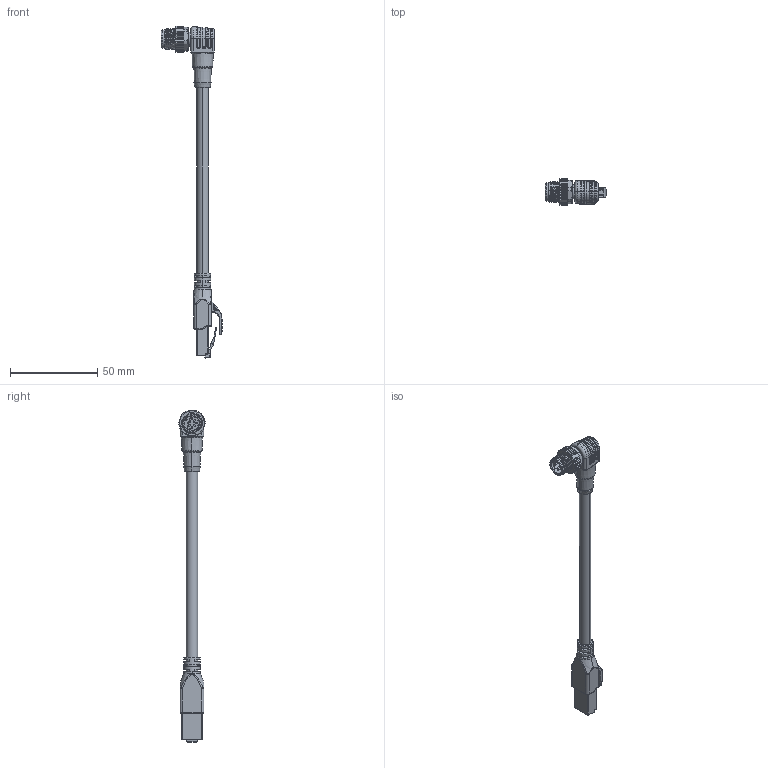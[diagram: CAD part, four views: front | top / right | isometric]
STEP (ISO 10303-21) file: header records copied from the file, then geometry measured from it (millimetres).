
FILE_DESCRIPTION (( 'STEP AP203' ), '1' );
FILE_NAME ('0C4591-XXX.STEP', '2024-11-27T01:23:07', ( 'L' ), ( '' ), 'SwSTEP 2.0', 'SolidWorks 2019', '' );
FILE_SCHEMA (( 'CONFIG_CONTROL_DESIGN' ));
Length unit declared in the file: millimetre
Products named in the file (1): 0C4591-XXX
Bounding box: 35.05 x 15 x 190.05 mm (x, y, z)
Volume: 13253.5 mm3; surface area: 9009 mm2
Topology: 1 solids, 3 shells, 1429 faces, 3940 edges, 2534 vertices
Faces by surface type: plane 553, cylinder 467, bspline 177, cone 113, torus 103, sphere 16
Entity records: 67606 total; most frequent: CARTESIAN_POINT 33591, ORIENTED_EDGE 7878, DIRECTION 6145, EDGE_CURVE 3939, VERTEX_POINT 2534, AXIS2_PLACEMENT_3D 2233, LINE 1679, VECTOR 1679
